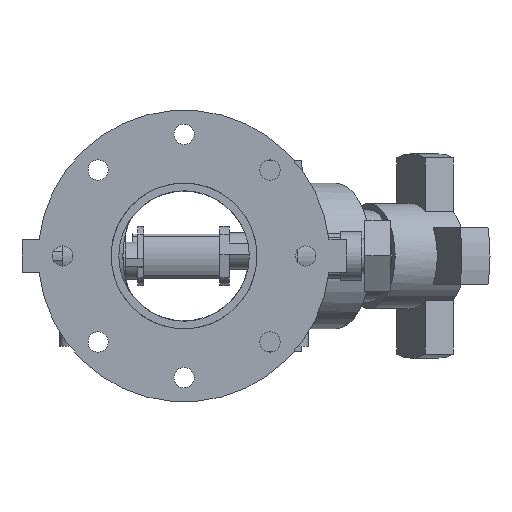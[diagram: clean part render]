
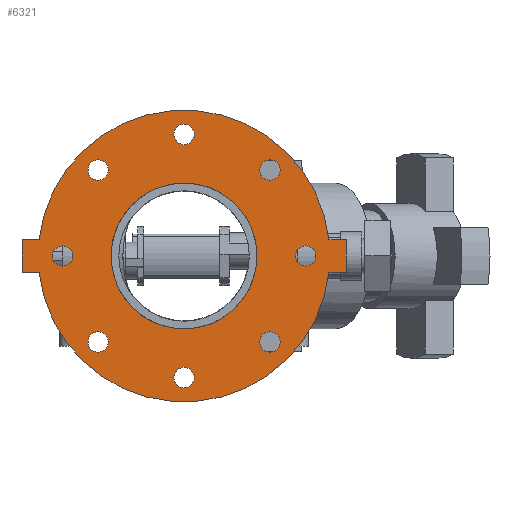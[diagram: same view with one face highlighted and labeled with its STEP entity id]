
A CAD part, front view. The second image highlights one B-rep face of the part: STEP entity #6321.
In plain terms, the highlighted planar face has unit normal (0, -1, 0) as drawn and (0, 0, 1) by its records, which use the part's own axes.
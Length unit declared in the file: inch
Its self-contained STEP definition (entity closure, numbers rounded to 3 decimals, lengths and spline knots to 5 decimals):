
#165=FACE_BOUND('',#803,.T.);
#166=FACE_BOUND('',#804,.T.);
#167=FACE_BOUND('',#805,.T.);
#168=FACE_BOUND('',#806,.T.);
#169=FACE_BOUND('',#807,.T.);
#170=FACE_BOUND('',#808,.T.);
#171=FACE_BOUND('',#809,.T.);
#172=FACE_BOUND('',#810,.T.);
#173=FACE_BOUND('',#811,.T.);
#233=PLANE('',#6862);
#448=FACE_OUTER_BOUND('',#802,.T.);
#802=EDGE_LOOP('',(#4113,#4114,#4115,#4116,#4117,#4118,#4119,#4120));
#803=EDGE_LOOP('',(#4121));
#804=EDGE_LOOP('',(#4122));
#805=EDGE_LOOP('',(#4123));
#806=EDGE_LOOP('',(#4124));
#807=EDGE_LOOP('',(#4125));
#808=EDGE_LOOP('',(#4126));
#809=EDGE_LOOP('',(#4127));
#810=EDGE_LOOP('',(#4128));
#811=EDGE_LOOP('',(#4129,#4130));
#1210=LINE('',#9609,#1698);
#1211=LINE('',#9612,#1699);
#1214=LINE('',#9617,#1702);
#1215=LINE('',#9620,#1703);
#1217=LINE('',#9623,#1705);
#1218=LINE('',#9625,#1706);
#1698=VECTOR('',#7653,0.3937);
#1699=VECTOR('',#7656,0.3937);
#1702=VECTOR('',#7661,0.3937);
#1703=VECTOR('',#7664,0.3937);
#1705=VECTOR('',#7668,0.3937);
#1706=VECTOR('',#7671,0.3937);
#2166=CIRCLE('',#6821,0.3125);
#2168=CIRCLE('',#6824,0.3125);
#2170=CIRCLE('',#6827,0.3125);
#2172=CIRCLE('',#6830,0.3125);
#2174=CIRCLE('',#6833,0.3125);
#2176=CIRCLE('',#6836,0.3125);
#2178=CIRCLE('',#6839,0.3125);
#2180=CIRCLE('',#6842,0.3125);
#2186=CIRCLE('',#6850,4.5);
#2187=CIRCLE('',#6852,2.25);
#2188=CIRCLE('',#6853,2.25);
#2189=CIRCLE('',#6855,4.5);
#2514=VERTEX_POINT('',#9520);
#2516=VERTEX_POINT('',#9526);
#2518=VERTEX_POINT('',#9532);
#2520=VERTEX_POINT('',#9538);
#2522=VERTEX_POINT('',#9544);
#2524=VERTEX_POINT('',#9550);
#2526=VERTEX_POINT('',#9556);
#2528=VERTEX_POINT('',#9562);
#2540=VERTEX_POINT('',#9589);
#2541=VERTEX_POINT('',#9591);
#2542=VERTEX_POINT('',#9595);
#2543=VERTEX_POINT('',#9597);
#2544=VERTEX_POINT('',#9601);
#2545=VERTEX_POINT('',#9603);
#2546=VERTEX_POINT('',#9607);
#2547=VERTEX_POINT('',#9611);
#2548=VERTEX_POINT('',#9615);
#2549=VERTEX_POINT('',#9619);
#3121=EDGE_CURVE('',#2514,#2514,#2166,.T.);
#3124=EDGE_CURVE('',#2516,#2516,#2168,.T.);
#3127=EDGE_CURVE('',#2518,#2518,#2170,.T.);
#3130=EDGE_CURVE('',#2520,#2520,#2172,.T.);
#3133=EDGE_CURVE('',#2522,#2522,#2174,.T.);
#3136=EDGE_CURVE('',#2524,#2524,#2176,.T.);
#3139=EDGE_CURVE('',#2526,#2526,#2178,.T.);
#3142=EDGE_CURVE('',#2528,#2528,#2180,.T.);
#3157=EDGE_CURVE('',#2540,#2541,#2186,.T.);
#3159=EDGE_CURVE('',#2543,#2542,#2187,.T.);
#3160=EDGE_CURVE('',#2542,#2543,#2188,.T.);
#3162=EDGE_CURVE('',#2545,#2544,#2189,.T.);
#3165=EDGE_CURVE('',#2541,#2546,#1210,.T.);
#3166=EDGE_CURVE('',#2547,#2545,#1211,.T.);
#3169=EDGE_CURVE('',#2544,#2548,#1214,.T.);
#3170=EDGE_CURVE('',#2549,#2540,#1215,.T.);
#3172=EDGE_CURVE('',#2548,#2549,#1217,.T.);
#3173=EDGE_CURVE('',#2546,#2547,#1218,.T.);
#4113=ORIENTED_EDGE('',*,*,#3169,.T.);
#4114=ORIENTED_EDGE('',*,*,#3172,.T.);
#4115=ORIENTED_EDGE('',*,*,#3170,.T.);
#4116=ORIENTED_EDGE('',*,*,#3157,.T.);
#4117=ORIENTED_EDGE('',*,*,#3165,.T.);
#4118=ORIENTED_EDGE('',*,*,#3173,.T.);
#4119=ORIENTED_EDGE('',*,*,#3166,.T.);
#4120=ORIENTED_EDGE('',*,*,#3162,.T.);
#4121=ORIENTED_EDGE('',*,*,#3121,.T.);
#4122=ORIENTED_EDGE('',*,*,#3124,.T.);
#4123=ORIENTED_EDGE('',*,*,#3127,.T.);
#4124=ORIENTED_EDGE('',*,*,#3130,.T.);
#4125=ORIENTED_EDGE('',*,*,#3133,.T.);
#4126=ORIENTED_EDGE('',*,*,#3136,.T.);
#4127=ORIENTED_EDGE('',*,*,#3139,.T.);
#4128=ORIENTED_EDGE('',*,*,#3142,.T.);
#4129=ORIENTED_EDGE('',*,*,#3159,.T.);
#4130=ORIENTED_EDGE('',*,*,#3160,.T.);
#6321=ADVANCED_FACE('',(#448,#165,#166,#167,#168,#169,#170,#171,#172,#173),
#233,.T.);
#6821=AXIS2_PLACEMENT_3D('',#9521,#7561,#7562);
#6824=AXIS2_PLACEMENT_3D('',#9527,#7568,#7569);
#6827=AXIS2_PLACEMENT_3D('',#9533,#7575,#7576);
#6830=AXIS2_PLACEMENT_3D('',#9539,#7582,#7583);
#6833=AXIS2_PLACEMENT_3D('',#9545,#7589,#7590);
#6836=AXIS2_PLACEMENT_3D('',#9551,#7596,#7597);
#6839=AXIS2_PLACEMENT_3D('',#9557,#7603,#7604);
#6842=AXIS2_PLACEMENT_3D('',#9563,#7610,#7611);
#6850=AXIS2_PLACEMENT_3D('',#9593,#7635,#7636);
#6852=AXIS2_PLACEMENT_3D('',#9598,#7640,#7641);
#6853=AXIS2_PLACEMENT_3D('',#9599,#7642,#7643);
#6855=AXIS2_PLACEMENT_3D('',#9604,#7647,#7648);
#6862=AXIS2_PLACEMENT_3D('',#9626,#7672,#7673);
#7561=DIRECTION('center_axis',(0.,0.,-1.));
#7562=DIRECTION('ref_axis',(-0.707,0.707,0.));
#7568=DIRECTION('center_axis',(0.,0.,-1.));
#7569=DIRECTION('ref_axis',(0.,1.,0.));
#7575=DIRECTION('center_axis',(0.,0.,-1.));
#7576=DIRECTION('ref_axis',(0.707,0.707,0.));
#7582=DIRECTION('center_axis',(0.,0.,-1.));
#7583=DIRECTION('ref_axis',(1.,0.,0.));
#7589=DIRECTION('center_axis',(0.,0.,-1.));
#7590=DIRECTION('ref_axis',(0.707,-0.707,0.));
#7596=DIRECTION('center_axis',(0.,0.,-1.));
#7597=DIRECTION('ref_axis',(0.,-1.,0.));
#7603=DIRECTION('center_axis',(0.,0.,-1.));
#7604=DIRECTION('ref_axis',(-0.707,-0.707,0.));
#7610=DIRECTION('center_axis',(0.,0.,-1.));
#7611=DIRECTION('ref_axis',(-1.,0.,0.));
#7635=DIRECTION('center_axis',(0.,0.,1.));
#7636=DIRECTION('ref_axis',(-1.,0.,0.));
#7640=DIRECTION('center_axis',(0.,0.,-1.));
#7641=DIRECTION('ref_axis',(-1.,0.,0.));
#7642=DIRECTION('center_axis',(0.,0.,-1.));
#7643=DIRECTION('ref_axis',(-1.,0.,0.));
#7647=DIRECTION('center_axis',(0.,0.,1.));
#7648=DIRECTION('ref_axis',(-1.,0.,0.));
#7653=DIRECTION('',(0.,1.,0.));
#7656=DIRECTION('',(0.,-1.,0.));
#7661=DIRECTION('',(0.,-1.,0.));
#7664=DIRECTION('',(0.,1.,0.));
#7668=DIRECTION('',(1.,0.,0.));
#7671=DIRECTION('',(-1.,0.,0.));
#7672=DIRECTION('center_axis',(0.,0.,1.));
#7673=DIRECTION('ref_axis',(1.,0.,0.));
#9520=CARTESIAN_POINT('',(-2.43068,2.43068,0.5));
#9521=CARTESIAN_POINT('Origin',(-2.65165,2.65165,0.5));
#9526=CARTESIAN_POINT('',(0.,3.4375,0.5));
#9527=CARTESIAN_POINT('Origin',(0.,3.75,0.5));
#9532=CARTESIAN_POINT('',(2.43068,2.43068,0.5));
#9533=CARTESIAN_POINT('Origin',(2.65165,2.65165,0.5));
#9538=CARTESIAN_POINT('',(3.4375,0.,0.5));
#9539=CARTESIAN_POINT('Origin',(3.75,0.,0.5));
#9544=CARTESIAN_POINT('',(2.43068,-2.43068,0.5));
#9545=CARTESIAN_POINT('Origin',(2.65165,-2.65165,0.5));
#9550=CARTESIAN_POINT('',(0.,-3.4375,0.5));
#9551=CARTESIAN_POINT('Origin',(0.,-3.75,0.5));
#9556=CARTESIAN_POINT('',(-2.43068,-2.43068,0.5));
#9557=CARTESIAN_POINT('Origin',(-2.65165,-2.65165,0.5));
#9562=CARTESIAN_POINT('',(-3.4375,0.,0.5));
#9563=CARTESIAN_POINT('Origin',(-3.75,0.,0.5));
#9589=CARTESIAN_POINT('',(0.5,-4.47214,0.5));
#9591=CARTESIAN_POINT('',(0.5,4.47214,0.5));
#9593=CARTESIAN_POINT('Origin',(0.,0.,0.5));
#9595=CARTESIAN_POINT('',(2.25,0.,0.5));
#9597=CARTESIAN_POINT('',(0.5,2.19374,0.5));
#9598=CARTESIAN_POINT('Origin',(0.,0.,0.5));
#9599=CARTESIAN_POINT('Origin',(0.,0.,0.5));
#9601=CARTESIAN_POINT('',(-0.5,-4.47214,0.5));
#9603=CARTESIAN_POINT('',(-0.5,4.47214,0.5));
#9604=CARTESIAN_POINT('Origin',(0.,0.,0.5));
#9607=CARTESIAN_POINT('',(0.5,5.,0.5));
#9609=CARTESIAN_POINT('',(0.5,5.,0.5));
#9611=CARTESIAN_POINT('',(-0.5,5.,0.5));
#9612=CARTESIAN_POINT('',(-0.5,-5.,0.5));
#9615=CARTESIAN_POINT('',(-0.5,-5.,0.5));
#9617=CARTESIAN_POINT('',(-0.5,-5.,0.5));
#9619=CARTESIAN_POINT('',(0.5,-5.,0.5));
#9620=CARTESIAN_POINT('',(0.5,5.,0.5));
#9623=CARTESIAN_POINT('',(0.5,-5.,0.5));
#9625=CARTESIAN_POINT('',(-0.5,5.,0.5));
#9626=CARTESIAN_POINT('Origin',(0.,0.,0.5));
